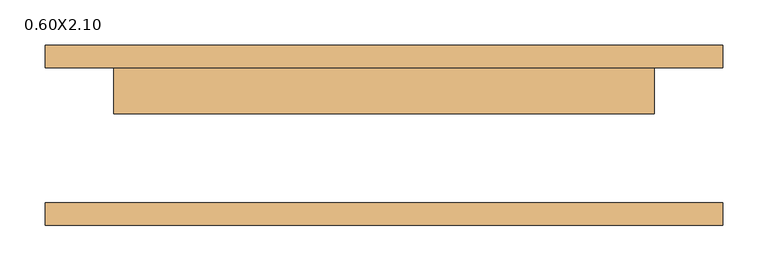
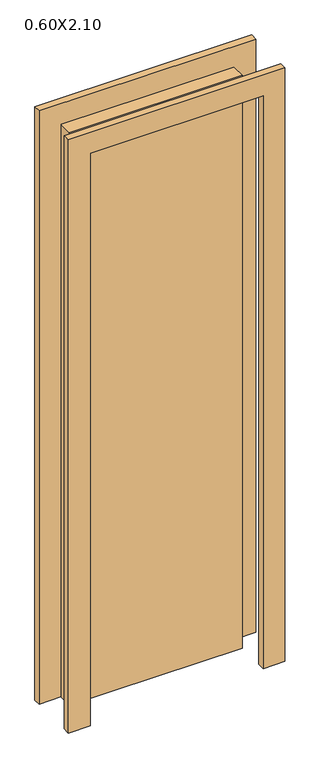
"""IFC4 building model written with IfcOpenShell, lengths in millimetres: door geometry, M_Folha única : 0.60X2.10."""

from ifc_helpers import new_model, si_unit, frame, origin, origin_with_axes, place, context, project, spatial, polyline, outline, extrude, source, transform, mapped, element, save


def door_0_60x2_10_a66e64d3(model_context):
    return source(origin(), model_context, "Body", "SweptSolid", [
        extrude(outline(polyline([(2176.0, -376.0), (0.0, -376.0), (0.0, -300.0), (2100.0, -300.0), (2100.0, 300.0), (0.0, 300.0), (0.0, 376.0), (2176.0, 376.0), (2176.0, -376.0)])), frame((0.0, 75.0, 0.0), z_axis=(0.0, 1.0, 0.0), x_axis=(0.0, 0.0, 1.0)), (0.0, 0.0, 1.0), 25.0),
        extrude(outline(polyline([(2176.0, 376.0), (2176.0, -376.0), (0.0, -376.0), (0.0, -300.0), (2100.0, -300.0), (2100.0, 300.0), (0.0, 300.0), (0.0, 376.0), (2176.0, 376.0)])), frame((0.0, -100.0, 0.0), z_axis=(0.0, 1.0, 0.0), x_axis=(0.0, 0.0, 1.0)), (0.0, 0.0, 1.0), 25.0),
        extrude(outline(polyline([(300.0, 24.0), (-300.0, 24.0), (-300.0, 75.0), (300.0, 75.0), (300.0, 24.0)])), origin_with_axes(), (0.0, 0.0, 1.0), 2100.0),
    ])


if __name__ == "__main__":
    model = new_model("IFC4")
    model_context = context("Model", 3, world=origin())
    ifc_project = project(units=[si_unit("LENGTHUNIT", "METRE", prefix="MILLI")], contexts=[model_context])
    site = spatial("IfcSite", under=ifc_project)
    building = spatial("IfcBuilding", under=site)
    placement = place(None, origin())
    door_0_60x2_10_shape = door_0_60x2_10_a66e64d3(model_context)
    element("IfcDoor", 1, ObjectType="M_Folha única : 0.60X2.10", at=placement, inside=building, context=model_context, shape_type="MappedRepresentation", body=[
        mapped(door_0_60x2_10_shape, transform((0.0, 0.0, 0.0), x_axis=(1.0, 0.0, 0.0), y_axis=(0.0, 1.0, 0.0), z_axis=(0.0, 0.0, 1.0))),
    ])
    save(model, "model.ifc")
